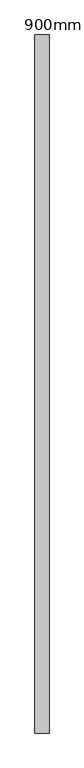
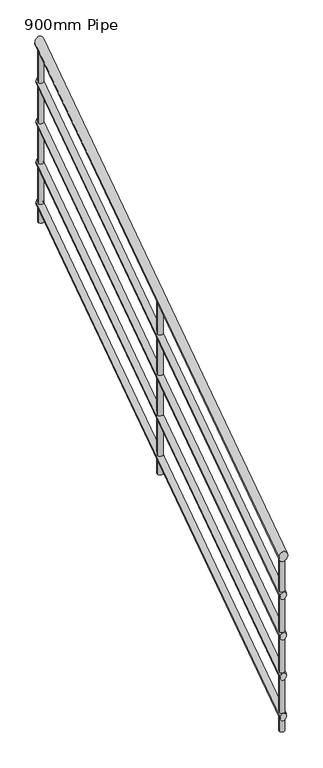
"""IFC4 building model written with IfcOpenShell, lengths in millimetres: railing geometry, 900mm Pipe."""

from ifc_helpers import new_model, si_unit, frame, origin, place, context, project, spatial, circle_curve, ellipse_curve, source, transform, mapped, element, save
from ifc_brep_helpers import plane_surface, cylinder_surface, advanced_brep


def railing_900mm_pipe_00ef5cd5(model_context):
    return source(origin(), model_context, "Body", "AdvancedBrep", [
        advanced_brep(
        [(-6378.3266822, -8881.7671527, -474.2064126), (-6338.3266822, -8881.7671527, -474.2064126), (-6378.3266822, -6901.7671527, 875.7935874), (-6338.3266822, -6901.7671527, 875.7935874)],
        [
            (0, 1, ellipse_curve(frame((-6358.3266822, -8881.7671527, -474.2064126), z_axis=(0.0, -1.0, 0.0), x_axis=(0.0, 0.0, -1.0)), 24.2064126, 20.0)),
            (1, 0, ellipse_curve(frame((-6358.3266822, -8881.7671527, -474.2064126), z_axis=(0.0, -1.0, 0.0), x_axis=(0.0, 0.0, -1.0)), 24.2064126, 20.0)),
            (2, 3, ellipse_curve(frame((-6358.3266822, -6901.7671527, 875.7935874), z_axis=(0.0, 1.0, 0.0), x_axis=(0.0, 0.0, -1.0)), 24.2064126, 20.0)),
            (3, 2, ellipse_curve(frame((-6358.3266822, -6901.7671527, 875.7935874), z_axis=(0.0, 1.0, 0.0), x_axis=(0.0, 0.0, -1.0)), 24.2064126, 20.0)),
            (0, 2),
            (3, 1),
        ],
        [
            plane_surface(frame((-6358.3266822, -8881.7671527, -450.0), z_axis=(0.0, -1.0, 0.0), x_axis=(0.0, 0.0, 1.0))),
            plane_surface(frame((-6358.3266822, -6901.7671527, 900.0), z_axis=(0.0, 1.0, 0.0), x_axis=(0.0, 0.0, 1.0))),
            cylinder_surface(frame((-6358.3266822, -8870.5004163, -466.5245469), z_axis=(0.0, -0.8262273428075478, -0.5633368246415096), x_axis=(1.0, 0.0, 0.0)), 20.0),
        ],
        [
            (0, [[1, 2]]),
            (1, [[3, 4]]),
            (2, [[-1, 5, -4, 6]]),
            (2, [[-2, -6, -3, -5]]),
        ],
    ),
        advanced_brep(
        [(-6373.3266822, -8881.7671527, -668.1548095), (-6343.3266822, -8881.7671527, -668.1548095), (-6373.3266822, -6901.7671527, 681.8451905), (-6343.3266822, -6901.7671527, 681.8451905)],
        [
            (0, 1, ellipse_curve(frame((-6358.3266822, -8881.7671527, -668.1548095), z_axis=(0.0, -1.0, 0.0), x_axis=(0.0, 0.0, -1.0)), 18.1548095, 15.0)),
            (1, 0, ellipse_curve(frame((-6358.3266822, -8881.7671527, -668.1548095), z_axis=(0.0, -1.0, 0.0), x_axis=(0.0, 0.0, -1.0)), 18.1548095, 15.0)),
            (2, 3, ellipse_curve(frame((-6358.3266822, -6901.7671527, 681.8451905), z_axis=(0.0, 1.0, 0.0), x_axis=(0.0, 0.0, -1.0)), 18.1548095, 15.0)),
            (3, 2, ellipse_curve(frame((-6358.3266822, -6901.7671527, 681.8451905), z_axis=(0.0, 1.0, 0.0), x_axis=(0.0, 0.0, -1.0)), 18.1548095, 15.0)),
            (0, 2),
            (3, 1),
        ],
        [
            plane_surface(frame((-6358.3266822, -8881.7671527, -650.0), z_axis=(0.0, -1.0, 0.0), x_axis=(0.0, 0.0, 1.0))),
            plane_surface(frame((-6358.3266822, -6901.7671527, 700.0), z_axis=(0.0, 1.0, 0.0), x_axis=(0.0, 0.0, 1.0))),
            cylinder_surface(frame((-6358.3266822, -8873.3171004, -662.3934101), z_axis=(0.0, -0.8262273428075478, -0.5633368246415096), x_axis=(1.0, 0.0, 0.0)), 15.0),
        ],
        [
            (0, [[1, 2]]),
            (1, [[3, 4]]),
            (2, [[-1, 5, -4, 6]]),
            (2, [[-2, -6, -3, -5]]),
        ],
    ),
        advanced_brep(
        [(-6373.3266822, -8881.7671527, -868.1548095), (-6343.3266822, -8881.7671527, -868.1548095), (-6373.3266822, -6901.7671527, 481.8451905), (-6343.3266822, -6901.7671527, 481.8451905)],
        [
            (0, 1, ellipse_curve(frame((-6358.3266822, -8881.7671527, -868.1548095), z_axis=(0.0, -1.0, 0.0), x_axis=(0.0, 0.0, -1.0)), 18.1548095, 15.0)),
            (1, 0, ellipse_curve(frame((-6358.3266822, -8881.7671527, -868.1548095), z_axis=(0.0, -1.0, 0.0), x_axis=(0.0, 0.0, -1.0)), 18.1548095, 15.0)),
            (2, 3, ellipse_curve(frame((-6358.3266822, -6901.7671527, 481.8451905), z_axis=(0.0, 1.0, 0.0), x_axis=(0.0, 0.0, -1.0)), 18.1548095, 15.0)),
            (3, 2, ellipse_curve(frame((-6358.3266822, -6901.7671527, 481.8451905), z_axis=(0.0, 1.0, 0.0), x_axis=(0.0, 0.0, -1.0)), 18.1548095, 15.0)),
            (0, 2),
            (3, 1),
        ],
        [
            plane_surface(frame((-6358.3266822, -8881.7671527, -850.0), z_axis=(0.0, -1.0, 0.0), x_axis=(0.0, 0.0, 1.0))),
            plane_surface(frame((-6358.3266822, -6901.7671527, 500.0), z_axis=(0.0, 1.0, 0.0), x_axis=(0.0, 0.0, 1.0))),
            cylinder_surface(frame((-6358.3266822, -8873.3171004, -862.3934101), z_axis=(0.0, -0.8262273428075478, -0.5633368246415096), x_axis=(1.0, 0.0, 0.0)), 15.0),
        ],
        [
            (0, [[1, 2]]),
            (1, [[3, 4]]),
            (2, [[-1, 5, -4, 6]]),
            (2, [[-2, -6, -3, -5]]),
        ],
    ),
        advanced_brep(
        [(-6373.3266822, -8881.7671527, -1068.1548095), (-6343.3266822, -8881.7671527, -1068.1548095), (-6373.3266822, -6901.7671527, 281.8451905), (-6343.3266822, -6901.7671527, 281.8451905)],
        [
            (0, 1, ellipse_curve(frame((-6358.3266822, -8881.7671527, -1068.1548095), z_axis=(0.0, -1.0, 0.0), x_axis=(0.0, 0.0, -1.0)), 18.1548095, 15.0)),
            (1, 0, ellipse_curve(frame((-6358.3266822, -8881.7671527, -1068.1548095), z_axis=(0.0, -1.0, 0.0), x_axis=(0.0, 0.0, -1.0)), 18.1548095, 15.0)),
            (2, 3, ellipse_curve(frame((-6358.3266822, -6901.7671527, 281.8451905), z_axis=(0.0, 1.0, 0.0), x_axis=(0.0, 0.0, -1.0)), 18.1548095, 15.0)),
            (3, 2, ellipse_curve(frame((-6358.3266822, -6901.7671527, 281.8451905), z_axis=(0.0, 1.0, 0.0), x_axis=(0.0, 0.0, -1.0)), 18.1548095, 15.0)),
            (0, 2),
            (3, 1),
        ],
        [
            plane_surface(frame((-6358.3266822, -8881.7671527, -1050.0), z_axis=(0.0, -1.0, 0.0), x_axis=(0.0, 0.0, 1.0))),
            plane_surface(frame((-6358.3266822, -6901.7671527, 300.0), z_axis=(0.0, 1.0, 0.0), x_axis=(0.0, 0.0, 1.0))),
            cylinder_surface(frame((-6358.3266822, -8873.3171004, -1062.3934101), z_axis=(0.0, -0.8262273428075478, -0.5633368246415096), x_axis=(1.0, 0.0, 0.0)), 15.0),
        ],
        [
            (0, [[1, 2]]),
            (1, [[3, 4]]),
            (2, [[-1, 5, -4, 6]]),
            (2, [[-2, -6, -3, -5]]),
        ],
    ),
        advanced_brep(
        [(-6373.3266822, -8881.7671527, -1268.1548095), (-6343.3266822, -8881.7671527, -1268.1548095), (-6373.3266822, -6901.7671527, 81.8451905), (-6343.3266822, -6901.7671527, 81.8451905)],
        [
            (0, 1, ellipse_curve(frame((-6358.3266822, -8881.7671527, -1268.1548095), z_axis=(0.0, -1.0, 0.0), x_axis=(0.0, 0.0, -1.0)), 18.1548095, 15.0)),
            (1, 0, ellipse_curve(frame((-6358.3266822, -8881.7671527, -1268.1548095), z_axis=(0.0, -1.0, 0.0), x_axis=(0.0, 0.0, -1.0)), 18.1548095, 15.0)),
            (2, 3, ellipse_curve(frame((-6358.3266822, -6901.7671527, 81.8451905), z_axis=(0.0, 1.0, 0.0), x_axis=(0.0, 0.0, -1.0)), 18.1548095, 15.0)),
            (3, 2, ellipse_curve(frame((-6358.3266822, -6901.7671527, 81.8451905), z_axis=(0.0, 1.0, 0.0), x_axis=(0.0, 0.0, -1.0)), 18.1548095, 15.0)),
            (0, 2),
            (3, 1),
        ],
        [
            plane_surface(frame((-6358.3266822, -8881.7671527, -1250.0), z_axis=(0.0, -1.0, 0.0), x_axis=(0.0, 0.0, 1.0))),
            plane_surface(frame((-6358.3266822, -6901.7671527, 100.0), z_axis=(0.0, 1.0, 0.0), x_axis=(0.0, 0.0, 1.0))),
            cylinder_surface(frame((-6358.3266822, -8873.3171004, -1262.3934101), z_axis=(0.0, -0.8262273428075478, -0.5633368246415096), x_axis=(1.0, 0.0, 0.0)), 15.0),
        ],
        [
            (0, [[1, 2]]),
            (1, [[3, 4]]),
            (2, [[-1, 5, -4, 6]]),
            (2, [[-2, -6, -3, -5]]),
        ],
    ),
        advanced_brep(
        [(-6345.8266822, -7881.7671527, 183.4053565), (-6345.8266822, -7881.7671527, -668.1818182), (-6370.8266822, -7881.7671527, -668.1818182), (-6370.8266822, -7881.7671527, 183.4053565)],
        [
            (0, 1),
            (1, 2, circle_curve(frame((-6358.3266822, -7881.7671527, -668.1818182), z_axis=(0.0, 0.0, 1.0), x_axis=(-1.0, 0.0, 0.0)), 12.5)),
            (2, 3),
            (3, 0, ellipse_curve(frame((-6358.3266822, -7881.7671527, 183.4053565), z_axis=(0.0, 0.5633368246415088, -0.8262273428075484), x_axis=(0.0, 0.8262273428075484, 0.5633368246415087)), 15.1290079, 12.5)),
            (0, 3, ellipse_curve(frame((-6358.3266822, -7881.7671527, 183.4053565), z_axis=(0.0, 0.5633368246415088, -0.8262273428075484), x_axis=(0.0, 0.8262273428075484, 0.5633368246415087)), 15.1290079, 12.5)),
            (2, 1, circle_curve(frame((-6358.3266822, -7881.7671527, -668.1818182), z_axis=(0.0, 0.0, 1.0), x_axis=(-1.0, 0.0, 0.0)), 12.5)),
        ],
        [
            cylinder_surface(frame((-6358.3266822, -7881.7671527, -768.1818182), z_axis=(0.0, 0.0, 1.0), x_axis=(-1.0, 0.0, 0.0)), 12.5),
            plane_surface(frame((-6383.3266822, -7856.7671527, 200.4508111), z_axis=(0.0, -0.5633368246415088, 0.8262273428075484), x_axis=(1.0, 0.0, 0.0))),
            plane_surface(frame((-6383.3266822, -7906.7671527, -668.1818182), z_axis=(0.0, 0.0, -1.0), x_axis=(1.0, 0.0, 0.0))),
        ],
        [
            (0, [[1, 2, 3, 4]]),
            (0, [[-1, 5, -3, 6]]),
            (1, [[-4, -5]]),
            (2, [[-2, -6]]),
        ],
    ),
        advanced_brep(
        [(-6345.8266822, -6914.2671527, 843.0644474), (-6345.8266822, -6914.2671527, -8.5227273), (-6370.8266822, -6914.2671527, -8.5227273), (-6370.8266822, -6914.2671527, 843.0644474)],
        [
            (0, 1),
            (1, 2, circle_curve(frame((-6358.3266822, -6914.2671527, -8.5227273), z_axis=(0.0, 0.0, 1.0), x_axis=(-1.0, 0.0, 0.0)), 12.5)),
            (2, 3),
            (3, 0, ellipse_curve(frame((-6358.3266822, -6914.2671527, 843.0644474), z_axis=(0.0, 0.5633368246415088, -0.8262273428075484), x_axis=(0.0, 0.8262273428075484, 0.5633368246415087)), 15.1290079, 12.5)),
            (0, 3, ellipse_curve(frame((-6358.3266822, -6914.2671527, 843.0644474), z_axis=(0.0, 0.5633368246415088, -0.8262273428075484), x_axis=(0.0, 0.8262273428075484, 0.5633368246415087)), 15.1290079, 12.5)),
            (2, 1, circle_curve(frame((-6358.3266822, -6914.2671527, -8.5227273), z_axis=(0.0, 0.0, 1.0), x_axis=(-1.0, 0.0, 0.0)), 12.5)),
        ],
        [
            cylinder_surface(frame((-6358.3266822, -6914.2671527, -108.5227273), z_axis=(0.0, 0.0, 1.0), x_axis=(-1.0, 0.0, 0.0)), 12.5),
            plane_surface(frame((-6383.3266822, -6889.2671527, 860.109902), z_axis=(0.0, -0.5633368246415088, 0.8262273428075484), x_axis=(1.0, 0.0, 0.0))),
            plane_surface(frame((-6383.3266822, -6939.2671527, -8.5227273), z_axis=(0.0, 0.0, -1.0), x_axis=(1.0, 0.0, 0.0))),
        ],
        [
            (0, [[1, 2, 3, 4]]),
            (0, [[-1, 5, -3, 6]]),
            (1, [[-4, -5]]),
            (2, [[-2, -6]]),
        ],
    ),
        advanced_brep(
        [(-6345.8266822, -8869.2671527, -489.890098), (-6345.8266822, -8869.2671527, -1341.4772727), (-6370.8266822, -8869.2671527, -1341.4772727), (-6370.8266822, -8869.2671527, -489.890098)],
        [
            (0, 1),
            (1, 2, circle_curve(frame((-6358.3266822, -8869.2671527, -1341.4772727), z_axis=(0.0, 0.0, 1.0), x_axis=(-1.0, 0.0, 0.0)), 12.5)),
            (2, 3),
            (3, 0, ellipse_curve(frame((-6358.3266822, -8869.2671527, -489.890098), z_axis=(0.0, 0.5633368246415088, -0.8262273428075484), x_axis=(0.0, 0.8262273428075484, 0.5633368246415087)), 15.1290079, 12.5)),
            (0, 3, ellipse_curve(frame((-6358.3266822, -8869.2671527, -489.890098), z_axis=(0.0, 0.5633368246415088, -0.8262273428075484), x_axis=(0.0, 0.8262273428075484, 0.5633368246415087)), 15.1290079, 12.5)),
            (2, 1, circle_curve(frame((-6358.3266822, -8869.2671527, -1341.4772727), z_axis=(0.0, 0.0, 1.0), x_axis=(-1.0, 0.0, 0.0)), 12.5)),
        ],
        [
            cylinder_surface(frame((-6358.3266822, -8869.2671527, -1441.4772727), z_axis=(0.0, 0.0, 1.0), x_axis=(-1.0, 0.0, 0.0)), 12.5),
            plane_surface(frame((-6383.3266822, -8844.2671527, -472.8446435), z_axis=(0.0, -0.5633368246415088, 0.8262273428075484), x_axis=(1.0, 0.0, 0.0))),
            plane_surface(frame((-6383.3266822, -8894.2671527, -1341.4772727), z_axis=(0.0, 0.0, -1.0), x_axis=(1.0, 0.0, 0.0))),
        ],
        [
            (0, [[1, 2, 3, 4]]),
            (0, [[-1, 5, -3, 6]]),
            (1, [[-4, -5]]),
            (2, [[-2, -6]]),
        ],
    ),
    ])


if __name__ == "__main__":
    model = new_model("IFC4")
    model_context = context("Model", 3, world=origin())
    ifc_project = project(units=[si_unit("LENGTHUNIT", "METRE", prefix="MILLI")], contexts=[model_context])
    site = spatial("IfcSite", under=ifc_project)
    building = spatial("IfcBuilding", under=site)
    placement = place(None, origin())
    railing_900mm_pipe_shape = railing_900mm_pipe_00ef5cd5(model_context)
    element("IfcRailing", 1, ObjectType="900mm Pipe", at=placement, inside=building, context=model_context, shape_type="MappedRepresentation", body=[
        mapped(railing_900mm_pipe_shape, transform((0.0, 0.0, 0.0), x_axis=(1.0, 0.0, 0.0), y_axis=(0.0, 1.0, 0.0), z_axis=(0.0, 0.0, 1.0))),
    ])
    save(model, "model.ifc")
